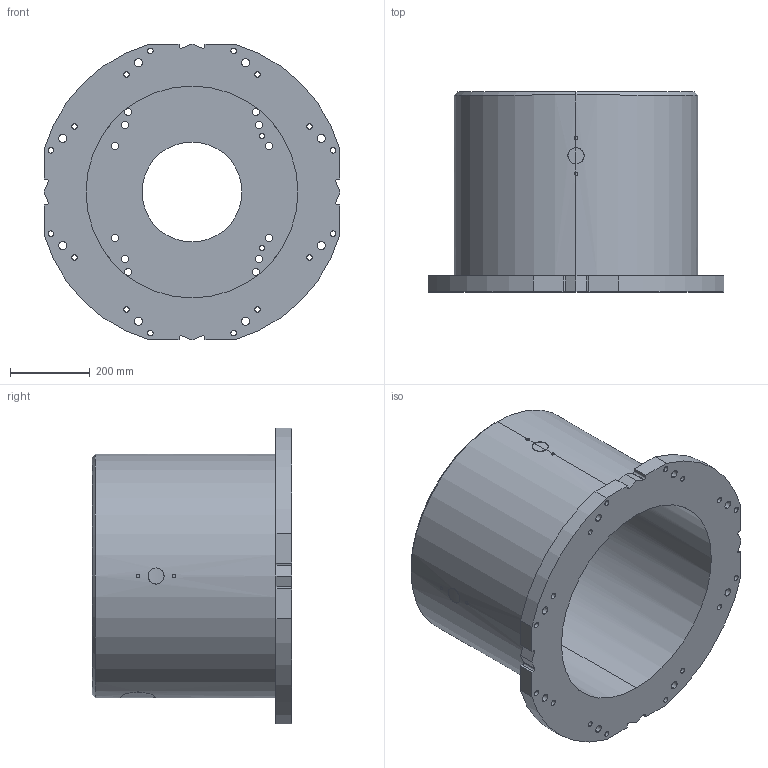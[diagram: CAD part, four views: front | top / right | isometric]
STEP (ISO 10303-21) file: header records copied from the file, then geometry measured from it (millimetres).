
FILE_DESCRIPTION (( 'STEP AP214' ), '1' );
FILE_NAME ('M-500.STEP', '2025-12-09T10:33:26', ( '' ), ( '' ), 'SwSTEP 2.0', 'SolidWorks 2022', '' );
FILE_SCHEMA (( 'AUTOMOTIVE_DESIGN' ));
Length unit declared in the file: millimetre
Products named in the file (1): M-500
Bounding box: 740 x 500 x 740 mm (x, y, z)
Volume: 48285008.2 mm3; surface area: 2648503.7 mm2
Topology: 1 solids, 1 shells, 194 faces, 540 edges, 356 vertices
Faces by surface type: cylinder 144, plane 28, bspline 16, cone 6
Entity records: 10731 total; most frequent: CARTESIAN_POINT 4761, ORIENTED_EDGE 1072, DIRECTION 1000, EDGE_CURVE 536, AXIS2_PLACEMENT_3D 393, VERTEX_POINT 356, EDGE_LOOP 284, LINE 214
